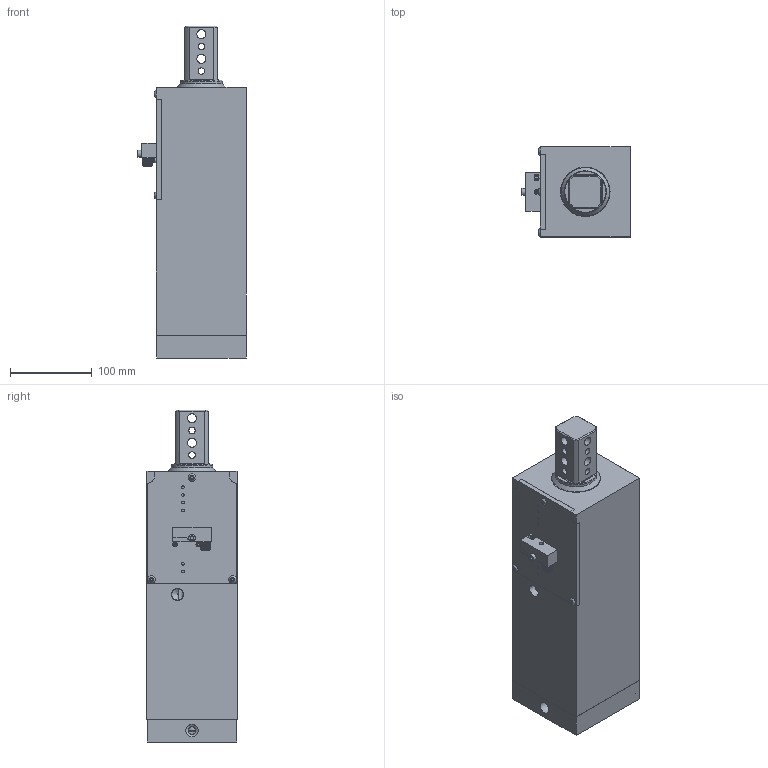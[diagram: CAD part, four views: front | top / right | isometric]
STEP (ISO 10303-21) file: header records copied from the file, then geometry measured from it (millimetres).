
FILE_DESCRIPTION(/* description */ (''),/* implementation_level */ '2;1');
FILE_NAME(/* name */ 'M:\cad\PRODUCT\LSA\LSA - 105\STEP\LSA-105\75mm Stroke\LSA-105 75mm - Retract.stp',/* time_stamp */ '2018-04-20T09:50:31-04:00',/* author */ ('Tyler'),/* organization */ (''),/* preprocessor_version */ 'ST-DEVELOPER v17',/* originating_system */ 'Autodesk Inventor 2018',/* authorisation */ '');
FILE_SCHEMA (('AUTOMOTIVE_DESIGN { 1 0 10303 214 3 1 1 }'));
Length unit declared in the file: inch
Products named in the file (1): LSA-105  75_100 Stroke - Stripped for STEP_Retract
Bounding box: 132.75 x 110.01 x 404.95 mm (x, y, z)
Volume: 3043789.6 mm3; surface area: 324859.4 mm2
Topology: 1 solids, 1 shells, 558 faces, 1501 edges, 995 vertices
Faces by surface type: plane 232, cylinder 220, cone 96, torus 5, sphere 3, bspline 2
Full cylindrical faces by diameter (mm): 1 x8, 1.397 x1, 1.842 x1, 2 x2, 2.464 x1, 3.175 x2, 3.251 x1, 3.264 x6, 3.961 x29, 4.14 x7, 4.928 x4, 5 x23, 5.3 x4, 5.5 x2, 6.35 x1, 6.502 x4, 8.019 x8, 8.3 x1, 8.382 x4, 8.5 x1, 9.5 x3, 9.525 x1, 10.02 x2, 10.49 x4, 10.5 x1, 10.998 x8, 12 x1, 13.894 x1, 14.287 x1, 14.808 x1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
Entity records: 24424 total; most frequent: CARTESIAN_POINT 9568, DIRECTION 3006, ORIENTED_EDGE 2978, EDGE_CURVE 1489, AXIS2_PLACEMENT_3D 1165, VERTEX_POINT 995, LINE 676, VECTOR 676
